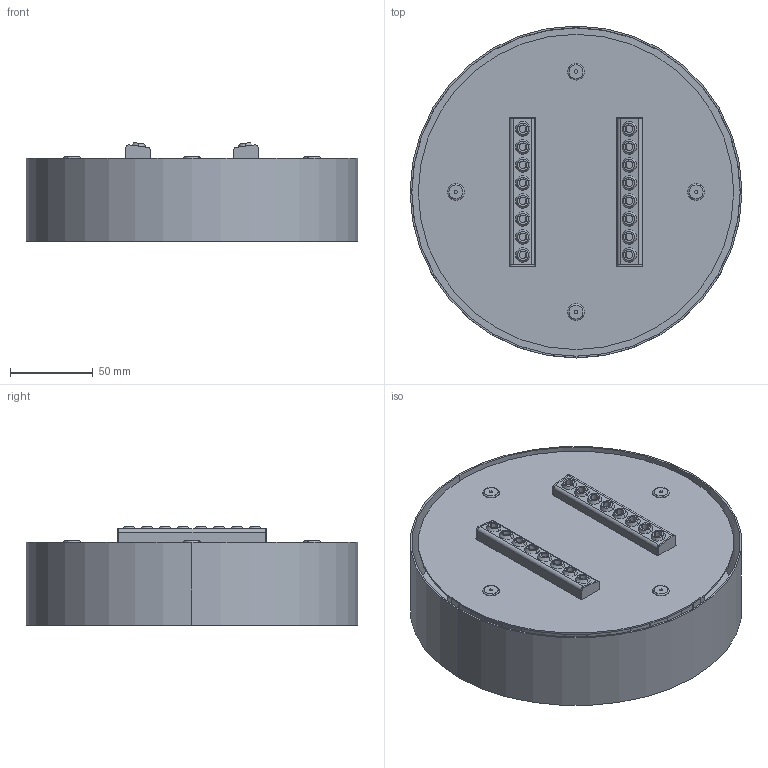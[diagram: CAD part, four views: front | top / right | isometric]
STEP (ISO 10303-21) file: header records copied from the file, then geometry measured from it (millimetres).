
FILE_DESCRIPTION (( 'STEP AP203' ), '1' );
FILE_NAME ('SSN6G.STEP', '2025-06-10T12:38:45', ( '' ), ( '' ), 'SwSTEP 2.0', 'SolidWorks 2024', '' );
FILE_SCHEMA (( 'CONFIG_CONTROL_DESIGN' ));
Length unit declared in the file: millimetre
Products named in the file (52): 23512.stp; T.RA063-0.stp; eBom-prt8.stp; Art.68250.stp; 23299.stp; S.00104-6.stp; eBom-prt23.stp; ASSEM1-5.stp; ASSEM1-9.stp; T.RA003.stp; eBom-prt7.stp; 23513.stp; 23511.stp; eBom-prt5.stp; 23510.stp; S.00150-2.stp; 23509.stp; eBom-prt15.stp; eBom-prt22.stp; 23798.stp; 23786.stp; eBom-prt14.stp; S.00311-4.stp; eBom-prt21.stp; P.00128.stp; ASSEM1-3.stp; S.00104.stp; S.00311.stp; 23786-10.stp; eBom-prt20.stp; 23298.stp; eBom-prt18.stp; SSN6G; eBom-prt11.stp; eBom-prt19.stp; 23509b.stp; eBom-prt17.stp; 23785.stp; 23509a.stp; ASSEM1-7.stp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
Assembly tree (60 placements, depth 6):
  eBom-prt8.stp
  eBom-prt23.stp
  ASSEM1-5.stp
  ASSEM1-9.stp
  eBom-prt7.stp
Bounding box: 200 x 200 x 59.57 mm (x, y, z)
Volume: 165360.7 mm3; surface area: 319696.4 mm2
Topology: 49 solids, 49 shells, 1433 faces, 3568 edges, 2288 vertices
Faces by surface type: plane 737, cylinder 542, cone 106, torus 28, bspline 20
Entity records: 34022 total; most frequent: CARTESIAN_POINT 6021, DIRECTION 4728, ORIENTED_EDGE 4624, EDGE_CURVE 2312, AXIS2_PLACEMENT_3D 1601, LINE 1526, VECTOR 1526, VERTEX_POINT 1482
